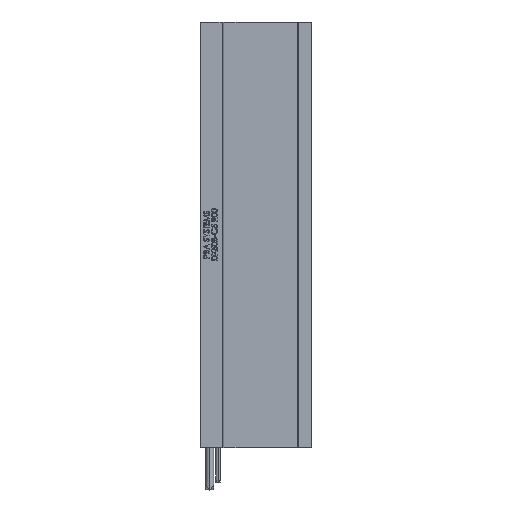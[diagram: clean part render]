
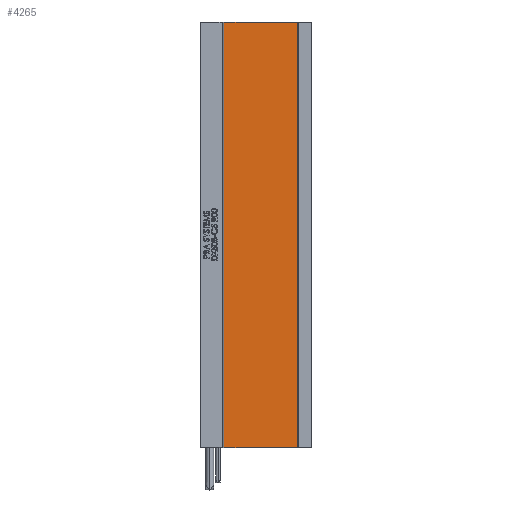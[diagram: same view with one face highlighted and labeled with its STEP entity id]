
A CAD part, left-side view. The second image highlights one B-rep face of the part: STEP entity #4265.
In plain terms, the highlighted planar face has unit normal (-1, 0, 0) as drawn and (1, 0, 0) by its records, which use the part's own axes.
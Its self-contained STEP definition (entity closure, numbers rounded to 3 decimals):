
#12 = VECTOR ( 'NONE', #11250, 1000. ) ;
#137 = CARTESIAN_POINT ( 'NONE',  ( 3.6, -64.9, -301. ) ) ;
#778 = VECTOR ( 'NONE', #35173, 1000. ) ;
#801 = VERTEX_POINT ( 'NONE', #2538 ) ;
#1336 = DIRECTION ( 'NONE',  ( 1., 0., 0. ) ) ;
#1489 = CARTESIAN_POINT ( 'NONE',  ( 3.6, -12.7, 0. ) ) ;
#1688 = LINE ( 'NONE', #137, #778 ) ;
#2134 = VERTEX_POINT ( 'NONE', #4539 ) ;
#2538 = CARTESIAN_POINT ( 'NONE',  ( 3.6, -12.7, 0. ) ) ;
#3369 = ORIENTED_EDGE ( 'NONE', *, *, #31969, .T. ) ;
#4265 = ADVANCED_FACE ( 'NONE', ( #26917 ), #35746, .T. ) ;
#4539 = CARTESIAN_POINT ( 'NONE',  ( 3.6, -64.9, -301. ) ) ;
#4716 = ORIENTED_EDGE ( 'NONE', *, *, #17159, .F. ) ;
#6500 = DIRECTION ( 'NONE',  ( 0., 0., 1. ) ) ;
#6758 = LINE ( 'NONE', #31075, #12 ) ;
#9354 = VERTEX_POINT ( 'NONE', #23311 ) ;
#11250 = DIRECTION ( 'NONE',  ( 0., 1., 0. ) ) ;
#12077 = ORIENTED_EDGE ( 'NONE', *, *, #36177, .F. ) ;
#12089 = LINE ( 'NONE', #1489, #22432 ) ;
#13369 = CARTESIAN_POINT ( 'NONE',  ( 3.6, -12.7, -301. ) ) ;
#15698 = CARTESIAN_POINT ( 'NONE',  ( 3.6, -12.7, -301. ) ) ;
#15844 = DIRECTION ( 'NONE',  ( 0., 1., 0. ) ) ;
#17159 = EDGE_CURVE ( 'NONE', #9354, #801, #12089, .T. ) ;
#17636 = VECTOR ( 'NONE', #6500, 1000. ) ;
#21472 = DIRECTION ( 'NONE',  ( 0., 1., 0. ) ) ;
#22432 = VECTOR ( 'NONE', #15844, 1000. ) ;
#22501 = EDGE_LOOP ( 'NONE', ( #4716, #12077, #36201, #3369 ) ) ;
#23311 = CARTESIAN_POINT ( 'NONE',  ( 3.6, -64.9, 0. ) ) ;
#24370 = LINE ( 'NONE', #29773, #17636 ) ;
#24409 = AXIS2_PLACEMENT_3D ( 'NONE', #15698, #1336, #21472 ) ;
#26917 = FACE_OUTER_BOUND ( 'NONE', #22501, .T. ) ;
#29773 = CARTESIAN_POINT ( 'NONE',  ( 3.6, -12.7, -301. ) ) ;
#31075 = CARTESIAN_POINT ( 'NONE',  ( 3.6, -12.7, -301. ) ) ;
#31969 = EDGE_CURVE ( 'NONE', #35024, #801, #24370, .T. ) ;
#32603 = EDGE_CURVE ( 'NONE', #2134, #35024, #6758, .T. ) ;
#35024 = VERTEX_POINT ( 'NONE', #13369 ) ;
#35173 = DIRECTION ( 'NONE',  ( 0., 0., 1. ) ) ;
#35746 = PLANE ( 'NONE',  #24409 ) ;
#36177 = EDGE_CURVE ( 'NONE', #2134, #9354, #1688, .T. ) ;
#36201 = ORIENTED_EDGE ( 'NONE', *, *, #32603, .T. ) ;
